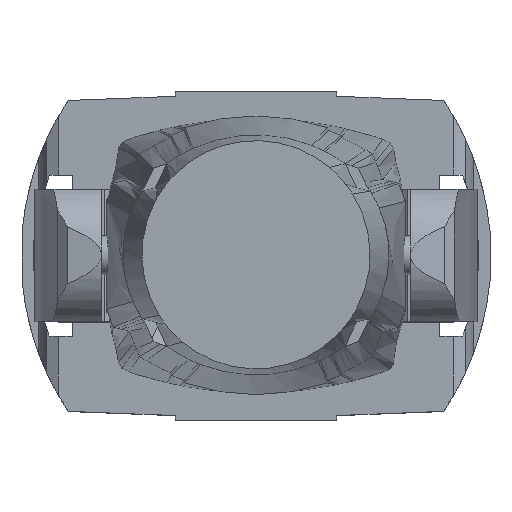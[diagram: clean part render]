
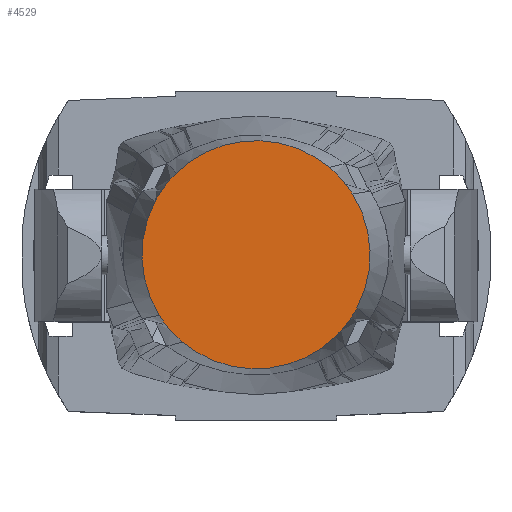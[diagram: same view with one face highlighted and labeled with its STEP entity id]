
A CAD part, top view. The second image highlights one B-rep face of the part: STEP entity #4529.
In plain terms, the highlighted planar face has unit normal (0, 0, 1).
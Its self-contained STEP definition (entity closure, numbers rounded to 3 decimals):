
#527=CIRCLE('',#4889,117.64);
#528=CIRCLE('',#4890,117.64);
#529=CIRCLE('',#4891,117.64);
#530=CIRCLE('',#4892,117.64);
#532=CIRCLE('',#4894,117.64);
#533=CIRCLE('',#4895,117.64);
#534=CIRCLE('',#4896,117.64);
#535=CIRCLE('',#4897,117.64);
#536=CIRCLE('',#4898,117.64);
#537=CIRCLE('',#4899,117.64);
#538=CIRCLE('',#4900,117.64);
#539=CIRCLE('',#4901,117.64);
#1723=ORIENTED_EDGE('',*,*,#2457,.T.);
#1724=ORIENTED_EDGE('',*,*,#2455,.T.);
#1725=ORIENTED_EDGE('',*,*,#2453,.T.);
#1726=ORIENTED_EDGE('',*,*,#2451,.T.);
#1727=ORIENTED_EDGE('',*,*,#2449,.T.);
#1728=ORIENTED_EDGE('',*,*,#2447,.T.);
#1729=ORIENTED_EDGE('',*,*,#2445,.T.);
#1730=ORIENTED_EDGE('',*,*,#2442,.T.);
#1731=ORIENTED_EDGE('',*,*,#2439,.T.);
#1732=ORIENTED_EDGE('',*,*,#2437,.T.);
#1733=ORIENTED_EDGE('',*,*,#2435,.T.);
#1734=ORIENTED_EDGE('',*,*,#2432,.T.);
#2432=EDGE_CURVE('',#2885,#2886,#527,.F.);
#2435=EDGE_CURVE('',#2887,#2885,#528,.F.);
#2437=EDGE_CURVE('',#2888,#2887,#529,.F.);
#2439=EDGE_CURVE('',#2889,#2888,#530,.F.);
#2442=EDGE_CURVE('',#2891,#2889,#532,.F.);
#2445=EDGE_CURVE('',#2892,#2891,#533,.F.);
#2447=EDGE_CURVE('',#2893,#2892,#534,.F.);
#2449=EDGE_CURVE('',#2894,#2893,#535,.F.);
#2451=EDGE_CURVE('',#2895,#2894,#536,.F.);
#2453=EDGE_CURVE('',#2896,#2895,#537,.F.);
#2455=EDGE_CURVE('',#2897,#2896,#538,.F.);
#2457=EDGE_CURVE('',#2886,#2897,#539,.F.);
#2885=VERTEX_POINT('',#8341);
#2886=VERTEX_POINT('',#8342);
#2887=VERTEX_POINT('',#8356);
#2888=VERTEX_POINT('',#8368);
#2889=VERTEX_POINT('',#8408);
#2891=VERTEX_POINT('',#8422);
#2892=VERTEX_POINT('',#8435);
#2893=VERTEX_POINT('',#8475);
#2894=VERTEX_POINT('',#8487);
#2895=VERTEX_POINT('',#8499);
#2896=VERTEX_POINT('',#8539);
#2897=VERTEX_POINT('',#8551);
#3803=EDGE_LOOP('',(#1723,#1724,#1725,#1726,#1727,#1728,#1729,#1730,#1731,
#1732,#1733,#1734));
#4137=FACE_BOUND('',#3803,.T.);
#4262=PLANE('',#4902);
#4529=ADVANCED_FACE('',(#4137),#4262,.F.);
#4889=AXIS2_PLACEMENT_3D('',#8340,#5819,#5820);
#4890=AXIS2_PLACEMENT_3D('',#8355,#5821,#5822);
#4891=AXIS2_PLACEMENT_3D('',#8367,#5823,#5824);
#4892=AXIS2_PLACEMENT_3D('',#8407,#5825,#5826);
#4894=AXIS2_PLACEMENT_3D('',#8421,#5829,#5830);
#4895=AXIS2_PLACEMENT_3D('',#8434,#5832,#5833);
#4896=AXIS2_PLACEMENT_3D('',#8474,#5834,#5835);
#4897=AXIS2_PLACEMENT_3D('',#8486,#5836,#5837);
#4898=AXIS2_PLACEMENT_3D('',#8498,#5838,#5839);
#4899=AXIS2_PLACEMENT_3D('',#8538,#5840,#5841);
#4900=AXIS2_PLACEMENT_3D('',#8550,#5842,#5843);
#4901=AXIS2_PLACEMENT_3D('',#8562,#5844,#5845);
#4902=AXIS2_PLACEMENT_3D('',#8563,#5846,#5847);
#5819=DIRECTION('',(0.,0.,-1.));
#5820=DIRECTION('',(1.,0.,0.));
#5821=DIRECTION('',(0.,0.,-1.));
#5822=DIRECTION('',(1.,0.,0.));
#5823=DIRECTION('',(0.,0.,-1.));
#5824=DIRECTION('',(1.,0.,0.));
#5825=DIRECTION('',(0.,0.,-1.));
#5826=DIRECTION('',(1.,0.,0.));
#5829=DIRECTION('',(0.,0.,-1.));
#5830=DIRECTION('',(1.,0.,0.));
#5832=DIRECTION('',(0.,0.,-1.));
#5833=DIRECTION('',(1.,0.,0.));
#5834=DIRECTION('',(0.,0.,-1.));
#5835=DIRECTION('',(1.,0.,0.));
#5836=DIRECTION('',(0.,0.,-1.));
#5837=DIRECTION('',(1.,0.,0.));
#5838=DIRECTION('',(0.,0.,-1.));
#5839=DIRECTION('',(1.,0.,0.));
#5840=DIRECTION('',(0.,0.,-1.));
#5841=DIRECTION('',(1.,0.,0.));
#5842=DIRECTION('',(0.,0.,-1.));
#5843=DIRECTION('',(1.,0.,0.));
#5844=DIRECTION('',(0.,0.,-1.));
#5845=DIRECTION('',(1.,0.,0.));
#5846=DIRECTION('',(0.,0.,-1.));
#5847=DIRECTION('',(-1.,0.,0.));
#8340=CARTESIAN_POINT('',(0.,0.,792.586));
#8341=CARTESIAN_POINT('',(-90.094,75.646,792.586));
#8342=CARTESIAN_POINT('',(-84.138,-82.219,792.586));
#8355=CARTESIAN_POINT('',(0.,0.,792.586));
#8356=CARTESIAN_POINT('',(-72.644,92.531,792.586));
#8367=CARTESIAN_POINT('',(0.,0.,792.586));
#8368=CARTESIAN_POINT('',(-62.448,99.696,792.586));
#8407=CARTESIAN_POINT('',(0.,0.,792.586));
#8408=CARTESIAN_POINT('',(54.868,104.061,792.586));
#8421=CARTESIAN_POINT('',(0.,0.,792.586));
#8422=CARTESIAN_POINT('',(65.465,97.742,792.586));
#8434=CARTESIAN_POINT('',(0.,0.,792.586));
#8435=CARTESIAN_POINT('',(84.138,82.219,792.586));
#8474=CARTESIAN_POINT('',(0.,0.,792.586));
#8475=CARTESIAN_POINT('',(90.094,-75.646,792.586));
#8486=CARTESIAN_POINT('',(0.,0.,792.586));
#8487=CARTESIAN_POINT('',(72.644,-92.531,792.586));
#8498=CARTESIAN_POINT('',(0.,0.,792.586));
#8499=CARTESIAN_POINT('',(62.553,-99.631,792.586));
#8538=CARTESIAN_POINT('',(0.,0.,792.586));
#8539=CARTESIAN_POINT('',(-54.759,-104.118,792.586));
#8550=CARTESIAN_POINT('',(0.,0.,792.586));
#8551=CARTESIAN_POINT('',(-65.465,-97.742,792.586));
#8562=CARTESIAN_POINT('',(0.,0.,792.586));
#8563=CARTESIAN_POINT('',(0.,0.,792.586));
